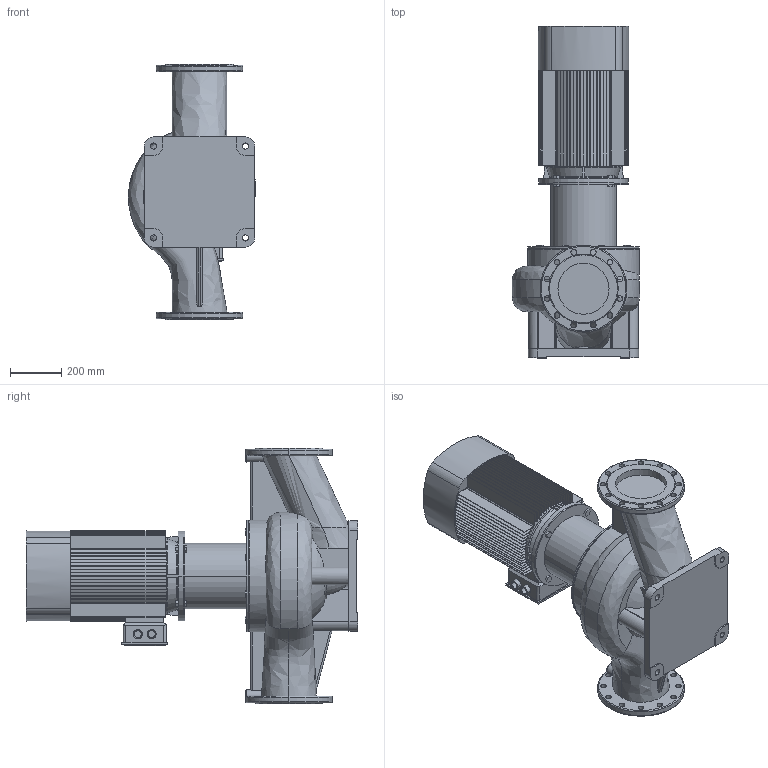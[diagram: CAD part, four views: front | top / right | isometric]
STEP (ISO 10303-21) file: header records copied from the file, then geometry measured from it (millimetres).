
FILE_DESCRIPTION (( 'STEP AP203' ), '1' );
FILE_NAME ('TD200-12.5_4.STEP', '2022-05-02T17:39:12', ( '' ), ( '' ), 'SwSTEP 2.0', 'SolidWorks 2019', '' );
FILE_SCHEMA (( 'CONFIG_CONTROL_DESIGN' ));
Length unit declared in the file: millimetre
Products named in the file (4): Pr_ch 200_TD200-12.5_4; ED_B5_YE2-180L-4 (22); TD200-12.5_4; Fon_200_TD200-12.5_4
Assembly tree (3 placements, depth 2):
  TD200-12.5_4
    Pr_ch 200_TD200-12.5_4
    Fon_200_TD200-12.5_4
    ED_B5_YE2-180L-4 (22)
Bounding box: 498.49 x 1300 x 1000 mm (x, y, z)
Volume: 140147901.7 mm3; surface area: 5383666.4 mm2
Topology: 5 solids, 7 shells, 756 faces, 2086 edges, 1383 vertices
Faces by surface type: plane 501, cylinder 184, torus 32, bspline 22, cone 17
Entity records: 33411 total; most frequent: CARTESIAN_POINT 13256, ORIENTED_EDGE 4172, DIRECTION 4121, EDGE_CURVE 2086, AXIS2_PLACEMENT_3D 1443, VERTEX_POINT 1383, VECTOR 1235, LINE 1235
